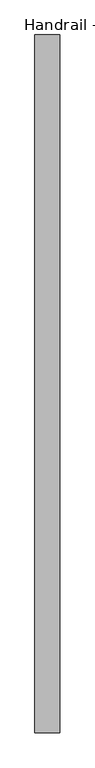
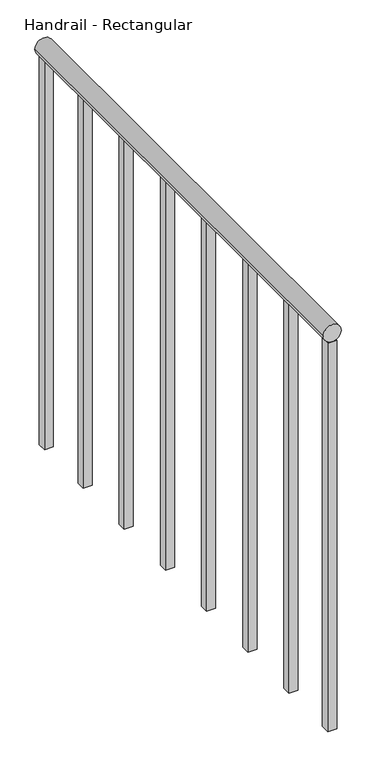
"""IFC4 building model written with IfcOpenShell, lengths in millimetres: railing geometry, Handrail - Rectangular."""

import ifcopenshell
import ifcopenshell.guid

model = None  # the IFC model being written
_history = None  # IfcOwnerHistory: only IFC2X3 demands one
_inside = {}  # id of a spatial element -> (the spatial element, [elements in it])
_under = {}  # id of a project, library or spatial element -> (it, [spatial elements below it])
_declared = {}  # id of a project -> (the project, [libraries it declares])
_typed = {}  # id of a type object -> (the type object, [elements of that type])
_made_of = {}  # id of a material, layer set ... -> (it, [elements and type objects made of it])


def new_model(schema):
    """Start an empty IFC model of exactly this schema.

    Asked for "IFC4X3", IfcOpenShell would pick the latest addendum, in which some entities
    have other attributes; the version numbers below select the first issue.
    IFC2X3 requires an IfcOwnerHistory on every rooted entity: one is made here for all.
    """
    global model, _history
    if schema == "IFC4X3":
        model = ifcopenshell.file(schema_version=(4, 3, 0, 0))
    else:
        model = ifcopenshell.file(schema=schema)
    _inside.clear()
    _under.clear()
    _declared.clear()
    _typed.clear()
    _made_of.clear()
    _history = None
    if model.schema == "IFC2X3":
        org = make("IfcOrganization", Name="unknown")
        user = make(
            "IfcPersonAndOrganization",
            ThePerson=make("IfcPerson", FamilyName="unknown"),
            TheOrganization=org,
        )
        app = make(
            "IfcApplication",
            ApplicationDeveloper=org,
            Version="unknown",
            ApplicationFullName="unknown",
            ApplicationIdentifier="unknown",
        )
        _history = make(
            "IfcOwnerHistory",
            OwningUser=user,
            OwningApplication=app,
            ChangeAction="ADDED",
            CreationDate=0,
        )
    return model


def make(cls, **values):
    """One entity of the class cls with the attributes given. An attribute that is None is left unset."""
    return model.create_entity(
        cls, **{name: value for name, value in values.items() if value is not None}
    )


def rooted(cls, **values):
    """An entity with a GlobalId (a new one), such as an element, a storey or a relation."""
    return make(cls, GlobalId=ifcopenshell.guid.new(), OwnerHistory=_history, **values)


def si_unit(unit_type, name, prefix=None):
    """IfcSIUnit, for example si_unit("LENGTHUNIT", "METRE", prefix="MILLI")."""
    return make("IfcSIUnit", UnitType=unit_type, Prefix=prefix, Name=name)


def assignment(units):
    """IfcUnitAssignment: the units of a project."""
    return None if units is None else make("IfcUnitAssignment", Units=units)


def point(xyz):
    """IfcCartesianPoint."""
    return None if xyz is None else make("IfcCartesianPoint", Coordinates=xyz)


def direction(xyz):
    """IfcDirection."""
    return None if xyz is None else make("IfcDirection", DirectionRatios=xyz)


def frame(location, z_axis=None, x_axis=None):
    """IfcAxis2Placement3D, a coordinate frame: its origin and axes. An axis left out is left unset."""
    return make(
        "IfcAxis2Placement3D",
        Location=point(location),
        Axis=direction(z_axis),
        RefDirection=direction(x_axis),
    )


def frame_2d(location, x_axis=None):
    """IfcAxis2Placement2D, a coordinate frame in the plane: its origin and x axis."""
    return make(
        "IfcAxis2Placement2D", Location=point(location), RefDirection=direction(x_axis)
    )


def origin():
    """The frame at (0, 0, 0) with its axes left unset."""
    return frame((0.0, 0.0, 0.0))


def place(relative_to, where):
    """IfcLocalPlacement: puts the frame where relative to a parent placement (None: the world)."""
    return make(
        "IfcLocalPlacement", PlacementRelTo=relative_to, RelativePlacement=where
    )


def context(
    kind, dimensions, precision=None, world=None, true_north=None, identifier=None
):
    """IfcGeometricRepresentationContext, for example the 3D "Model" context."""
    return make(
        "IfcGeometricRepresentationContext",
        ContextIdentifier=identifier,
        ContextType=kind,
        CoordinateSpaceDimension=dimensions,
        Precision=precision,
        WorldCoordinateSystem=world,
        TrueNorth=true_north,
    )


def project(units=None, contexts=None):
    """IfcProject with its units and contexts."""
    return rooted(
        "IfcProject",
        Name="project",
        RepresentationContexts=contexts,
        UnitsInContext=assignment(units),
    )


def spatial(cls, under=None, at=None, **own):
    """A site, building, storey or space (cls), placed at a placement, below another one or the project."""
    s = rooted(cls, ObjectPlacement=at, **own)
    if under is not None:
        _under.setdefault(under.id(), (under, []))[1].append(s)
    return s


def polyline(points):
    """IfcPolyline through the points."""
    return make("IfcPolyline", Points=[point(p) for p in points])


def circle_curve(where, radius):
    """IfcCircle in the frame where."""
    return make("IfcCircle", Position=where, Radius=radius)


def trimmed(basis, trim1, trim2, sense, master):
    """IfcTrimmedCurve: the piece of a basis curve between two trims."""
    return make(
        "IfcTrimmedCurve",
        BasisCurve=basis,
        Trim1=trim1,
        Trim2=trim2,
        SenseAgreement=sense,
        MasterRepresentation=master,
    )


def segment(curve, same_sense, transition):
    """IfcCompositeCurveSegment."""
    return make(
        "IfcCompositeCurveSegment",
        Transition=transition,
        SameSense=same_sense,
        ParentCurve=curve,
    )


def composite_curve(segments, self_intersect=None):
    """IfcCompositeCurve: segments joined end to end."""
    return make("IfcCompositeCurve", Segments=segments, SelfIntersect=self_intersect)


def outline(outer, holes=None, kind="AREA"):
    """IfcArbitraryClosedProfileDef: a profile drawn as a closed curve; with holes, ...WithVoids."""
    if holes is None:
        return make("IfcArbitraryClosedProfileDef", ProfileType=kind, OuterCurve=outer)
    return make(
        "IfcArbitraryProfileDefWithVoids",
        ProfileType=kind,
        OuterCurve=outer,
        InnerCurves=holes,
    )


def extrude(swept, where, along, depth):
    """IfcExtrudedAreaSolid: the profile swept, set in the frame where, extruded along a direction by depth."""
    return make(
        "IfcExtrudedAreaSolid",
        SweptArea=swept,
        Position=where,
        ExtrudedDirection=direction(along),
        Depth=depth,
    )


def shape(context_of_items, identifier, shape_type, items):
    """IfcShapeRepresentation: the items that make up one representation, for example the "Body"."""
    return make(
        "IfcShapeRepresentation",
        ContextOfItems=context_of_items,
        RepresentationIdentifier=identifier,
        RepresentationType=shape_type,
        Items=items,
    )


def source(mapping_origin, context_of_items, identifier, shape_type, items):
    """IfcRepresentationMap: a shape defined once, which mapped items show again and again."""
    return make(
        "IfcRepresentationMap",
        MappingOrigin=mapping_origin,
        MappedRepresentation=shape(context_of_items, identifier, shape_type, items),
    )


def transform(
    local_origin,
    x_axis=None,
    y_axis=None,
    z_axis=None,
    scale=None,
    scale2=None,
    scale3=None,
    uniform=True,
):
    """IfcCartesianTransformationOperator3D, or its non-uniform kind. x_axis, y_axis, z_axis: its Axis1, 2, 3."""
    if uniform:
        return make(
            "IfcCartesianTransformationOperator3D",
            Axis1=direction(x_axis),
            Axis2=direction(y_axis),
            LocalOrigin=point(local_origin),
            Scale=scale,
            Axis3=direction(z_axis),
        )
    return make(
        "IfcCartesianTransformationOperator3DnonUniform",
        Axis1=direction(x_axis),
        Axis2=direction(y_axis),
        LocalOrigin=point(local_origin),
        Scale=scale,
        Axis3=direction(z_axis),
        Scale2=scale2,
        Scale3=scale3,
    )


def mapped(mapping_source, mapping_target):
    """IfcMappedItem: shows the shape of a source again, moved by a transform."""
    return make(
        "IfcMappedItem", MappingSource=mapping_source, MappingTarget=mapping_target
    )


def made_of(thing, what):
    """Note that an element or type object is made of a material, layer set ...; save() writes the relation."""
    if what is not None:
        _made_of.setdefault(what.id(), (what, []))[1].append(thing)
    return thing


def element(
    cls,
    number,
    at=None,
    inside=None,
    cuts=None,
    type_object=None,
    material=None,
    context=None,
    identifier="Body",
    shape_type=None,
    held_by="IfcProductDefinitionShape",
    body=None,
    shapes=None,
    **own,
):
    """One element of the class cls, such as IfcWall. Its Tag is "e" and its number.

    at: its placement. inside: the storey or other place that contains it. cuts: it is an
    opening in that element (IfcRelVoidsElement). A single representation is given by context,
    identifier, shape_type and body (its items); several are given by shapes. held_by: the class
    of the entity that holds the representations. save() writes the other relations.
    """
    e = rooted(cls, Tag="e%d" % number, ObjectPlacement=at, **own)
    if body is not None:
        shapes = [shape(context, identifier, shape_type, body)]
    if shapes is not None:
        e.Representation = make(held_by, Representations=shapes)
    if inside is not None:
        _inside.setdefault(inside.id(), (inside, []))[1].append(e)
    if cuts is not None:
        rooted(
            "IfcRelVoidsElement", RelatingBuildingElement=cuts, RelatedOpeningElement=e
        )
    if type_object is not None:
        _typed.setdefault(type_object.id(), (type_object, []))[1].append(e)
    return made_of(e, material)


def aggregate(whole, parts):
    """IfcRelAggregates: a whole, such as a stair, and the parts it consists of."""
    return rooted("IfcRelAggregates", RelatingObject=whole, RelatedObjects=parts)


def save(model, path):
    """Write the relations noted so far, then the file.

    IfcRelAggregates (storeys below a building ...), IfcRelContainedInSpatialStructure (elements
    in a storey), IfcRelDefinesByType, IfcRelAssociatesMaterial and IfcRelDeclares: one each for
    every whole, place, type object, material and project.
    """
    for whole, parts in _under.values():
        aggregate(whole, parts)
    for where, things in _inside.values():
        rooted(
            "IfcRelContainedInSpatialStructure",
            RelatedElements=things,
            RelatingStructure=where,
        )
    for kind, things in _typed.values():
        rooted("IfcRelDefinesByType", RelatedObjects=things, RelatingType=kind)
    for what, things in _made_of.values():
        rooted("IfcRelAssociatesMaterial", RelatedObjects=things, RelatingMaterial=what)
    for by, libraries in _declared.values():
        rooted("IfcRelDeclares", RelatingContext=by, RelatedDefinitions=libraries)
    model.write(path)


def handrail_rectangular_ba242722(model_context):
    return source(origin(), model_context, "Body", "SweptSolid", [
        extrude(outline(composite_curve([segment(trimmed(circle_curve(frame_2d((3943.35, 2297.1410437)), 19.05), [point((3943.35, 2316.1910437))], [point((3943.35, 2278.0910437))], False, "CARTESIAN"), True, "CONTINUOUS"), segment(trimmed(circle_curve(frame_2d((3943.35, 2297.1410437)), 19.05), [point((3943.35, 2278.0910437))], [point((3943.35, 2316.1910437))], False, "CARTESIAN"), True, "CONTINUOUS")], self_intersect=False)), frame((0.0, 6864.8316867, 0.0), z_axis=(0.0, 1.0, 0.0), x_axis=(0.0, 0.0, 1.0)), (0.0, 0.0, 1.0), 1066.8),
        extrude(outline(polyline([(2287.6160437, 7026.7566867), (2306.6660437, 7026.7566867), (2306.6660437, 7007.7066867), (2287.6160437, 7007.7066867), (2287.6160437, 7026.7566867)])), frame((0.0, 0.0, 3048.0), z_axis=(0.0, 0.0, 1.0), x_axis=(1.0, 0.0, 0.0)), (0.0, 0.0, 1.0), 876.3),
        extrude(outline(polyline([(2287.6160437, 7179.1566867), (2306.6660437, 7179.1566867), (2306.6660437, 7160.1066867), (2287.6160437, 7160.1066867), (2287.6160437, 7179.1566867)])), frame((0.0, 0.0, 3048.0), z_axis=(0.0, 0.0, 1.0), x_axis=(1.0, 0.0, 0.0)), (0.0, 0.0, 1.0), 876.3),
        extrude(outline(polyline([(2287.6160437, 7331.5566867), (2306.6660437, 7331.5566867), (2306.6660437, 7312.5066867), (2287.6160437, 7312.5066867), (2287.6160437, 7331.5566867)])), frame((0.0, 0.0, 3048.0), z_axis=(0.0, 0.0, 1.0), x_axis=(1.0, 0.0, 0.0)), (0.0, 0.0, 1.0), 876.3),
        extrude(outline(polyline([(2287.6160437, 7483.9566867), (2306.6660437, 7483.9566867), (2306.6660437, 7464.9066867), (2287.6160437, 7464.9066867), (2287.6160437, 7483.9566867)])), frame((0.0, 0.0, 3048.0), z_axis=(0.0, 0.0, 1.0), x_axis=(1.0, 0.0, 0.0)), (0.0, 0.0, 1.0), 876.3),
        extrude(outline(polyline([(2287.6160437, 7636.3566867), (2306.6660437, 7636.3566867), (2306.6660437, 7617.3066867), (2287.6160437, 7617.3066867), (2287.6160437, 7636.3566867)])), frame((0.0, 0.0, 3048.0), z_axis=(0.0, 0.0, 1.0), x_axis=(1.0, 0.0, 0.0)), (0.0, 0.0, 1.0), 876.3),
        extrude(outline(polyline([(2287.6160437, 7788.7566867), (2306.6660437, 7788.7566867), (2306.6660437, 7769.7066867), (2287.6160437, 7769.7066867), (2287.6160437, 7788.7566867)])), frame((0.0, 0.0, 3048.0), z_axis=(0.0, 0.0, 1.0), x_axis=(1.0, 0.0, 0.0)), (0.0, 0.0, 1.0), 876.3),
        extrude(outline(polyline([(2287.6160437, 6883.8816867), (2306.6660437, 6883.8816867), (2306.6660437, 6864.8316867), (2287.6160437, 6864.8316867), (2287.6160437, 6883.8816867)])), frame((0.0, 0.0, 3048.0), z_axis=(0.0, 0.0, 1.0), x_axis=(1.0, 0.0, 0.0)), (0.0, 0.0, 1.0), 876.3),
        extrude(outline(polyline([(2287.6160437, 7931.6316867), (2306.6660437, 7931.6316867), (2306.6660437, 7912.5816867), (2287.6160437, 7912.5816867), (2287.6160437, 7931.6316867)])), frame((0.0, 0.0, 3048.0), z_axis=(0.0, 0.0, 1.0), x_axis=(1.0, 0.0, 0.0)), (0.0, 0.0, 1.0), 876.3),
    ])


if __name__ == "__main__":
    model = new_model("IFC4")
    model_context = context("Model", 3, world=origin())
    ifc_project = project(units=[si_unit("LENGTHUNIT", "METRE", prefix="MILLI")], contexts=[model_context])
    site = spatial("IfcSite", under=ifc_project)
    building = spatial("IfcBuilding", under=site)
    placement = place(None, origin())
    handrail_rectangular_shape = handrail_rectangular_ba242722(model_context)
    element("IfcRailing", 1, ObjectType="Handrail - Rectangular", at=placement, inside=building, context=model_context, shape_type="MappedRepresentation", body=[
        mapped(handrail_rectangular_shape, transform((0.0, 0.0, 0.0), x_axis=(1.0, 0.0, 0.0), y_axis=(0.0, 1.0, 0.0), z_axis=(0.0, 0.0, 1.0))),
    ])
    save(model, "model.ifc")
